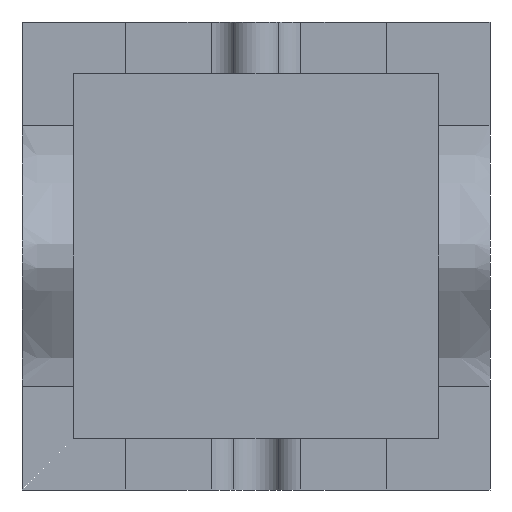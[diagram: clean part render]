
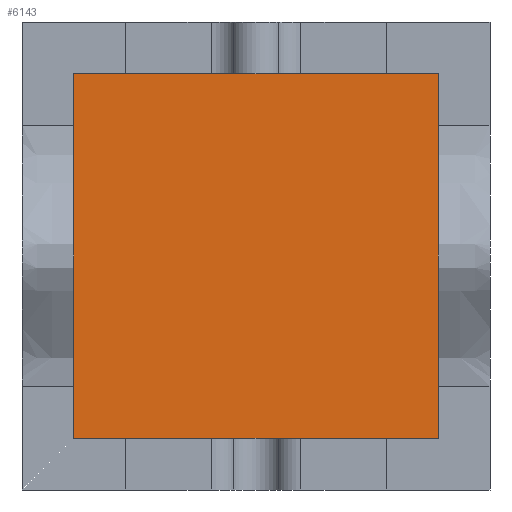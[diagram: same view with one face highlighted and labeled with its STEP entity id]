
A CAD part, front view. The second image highlights one B-rep face of the part: STEP entity #6143.
In plain terms, the highlighted planar face has unit normal (0, -1, 0).
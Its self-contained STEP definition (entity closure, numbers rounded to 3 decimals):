
#6017=CARTESIAN_POINT('Vertex',(-20.,-30.,-20.)) ;
#6022=CARTESIAN_POINT('Line Origine',(-20.,-30.,50.5)) ;
#6026=CARTESIAN_POINT('Vertex',(-20.,-30.,121.)) ;
#6053=CARTESIAN_POINT('Line Origine',(50.5,-30.,121.)) ;
#6057=CARTESIAN_POINT('Vertex',(121.,-30.,121.)) ;
#6084=CARTESIAN_POINT('Line Origine',(121.,-30.,50.5)) ;
#6088=CARTESIAN_POINT('Vertex',(121.,-30.,-20.)) ;
#6115=CARTESIAN_POINT('Line Origine',(50.5,-30.,-20.)) ;
#6132=CARTESIAN_POINT('Axis2P3D Location',(0.,-30.,0.)) ;
#6023=DIRECTION('Vector Direction',(0.,0.,-1.)) ;
#6054=DIRECTION('Vector Direction',(1.,0.,0.)) ;
#6085=DIRECTION('Vector Direction',(0.,0.,1.)) ;
#6116=DIRECTION('Vector Direction',(-1.,0.,0.)) ;
#6133=DIRECTION('Axis2P3D Direction',(0.,1.,0.)) ;
#6134=DIRECTION('Axis2P3D XDirection',(-1.,0.,0.)) ;
#6135=AXIS2_PLACEMENT_3D('Plane Axis2P3D',#6132,#6133,#6134) ;
#6138=ORIENTED_EDGE('',*,*,#6119,.F.) ;
#6139=ORIENTED_EDGE('',*,*,#6090,.F.) ;
#6140=ORIENTED_EDGE('',*,*,#6059,.F.) ;
#6141=ORIENTED_EDGE('',*,*,#6028,.F.) ;
#6024=VECTOR('Line Direction',#6023,1.) ;
#6055=VECTOR('Line Direction',#6054,1.) ;
#6086=VECTOR('Line Direction',#6085,1.) ;
#6117=VECTOR('Line Direction',#6116,1.) ;
#6143=ADVANCED_FACE('Cavity-molde',(#6142),#6136,.F.) ;
#6028=EDGE_CURVE('',#6018,#6027,#6025,.F.) ;
#6059=EDGE_CURVE('',#6027,#6058,#6056,.T.) ;
#6090=EDGE_CURVE('',#6058,#6089,#6087,.F.) ;
#6119=EDGE_CURVE('',#6089,#6018,#6118,.T.) ;
#6137=EDGE_LOOP('',(#6138,#6139,#6140,#6141)) ;
#6142=FACE_OUTER_BOUND('',#6137,.T.) ;
#6025=LINE('Line',#6022,#6024) ;
#6056=LINE('Line',#6053,#6055) ;
#6087=LINE('Line',#6084,#6086) ;
#6118=LINE('Line',#6115,#6117) ;
#6136=PLANE('',#6135) ;
#6018=VERTEX_POINT('',#6017) ;
#6027=VERTEX_POINT('',#6026) ;
#6058=VERTEX_POINT('',#6057) ;
#6089=VERTEX_POINT('',#6088) ;
